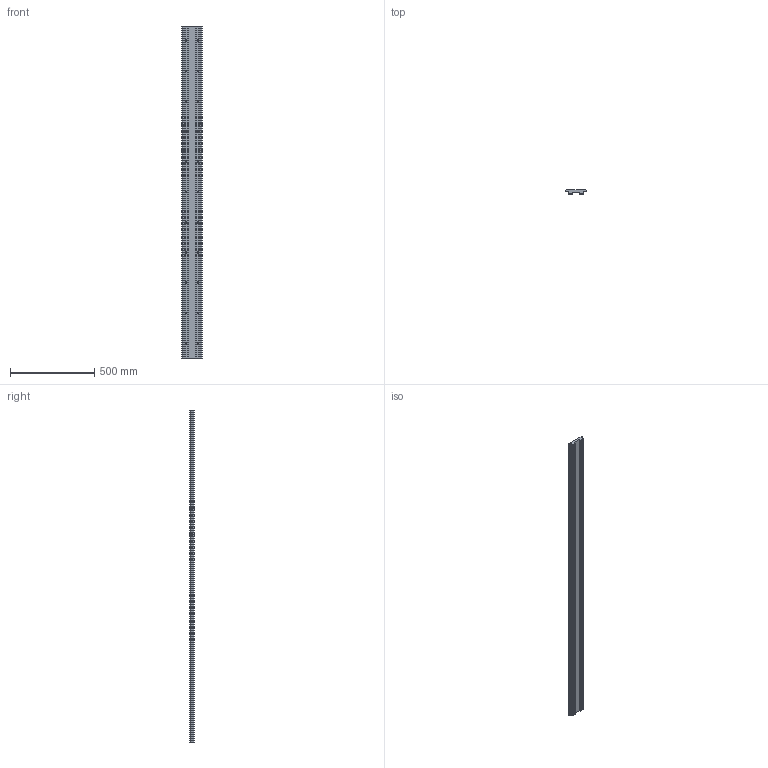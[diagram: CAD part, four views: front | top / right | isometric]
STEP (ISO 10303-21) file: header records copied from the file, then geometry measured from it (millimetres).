
FILE_DESCRIPTION(('STEP AP203'),'1');
FILE_NAME('slide_nl120l1976p3.stp','2022-07-01T05:47:56',('TraceParts'),('TraceParts S.A.'),'Spatial InterOp 3D',' ',' ');
FILE_SCHEMA(('CONFIG_CONTROL_DESIGN'));
Length unit declared in the file: millimetre
Products named in the file (1): 1
Bounding box: 120.25 x 24.41 x 1976 mm (x, y, z)
Volume: 3776525.4 mm3; surface area: 614257.4 mm2
Topology: 1 solids, 1 shells, 148 faces, 372 edges, 248 vertices
Faces by surface type: cylinder 100, plane 48
Entity records: 4668 total; most frequent: DIRECTION 870, CARTESIAN_POINT 769, ORIENTED_EDGE 744, EDGE_CURVE 372, AXIS2_PLACEMENT_3D 349, VERTEX_POINT 248, EDGE_LOOP 214, CIRCLE 200
